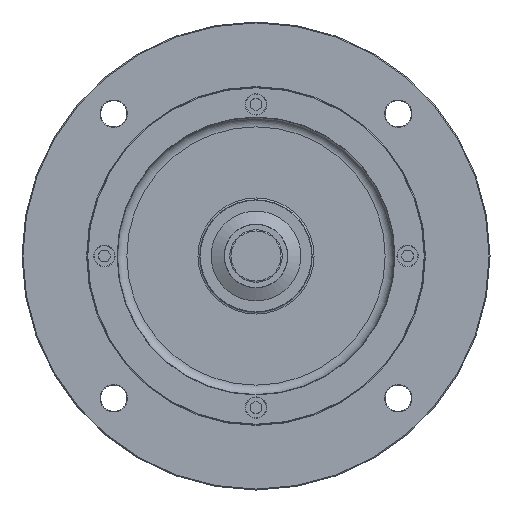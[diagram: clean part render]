
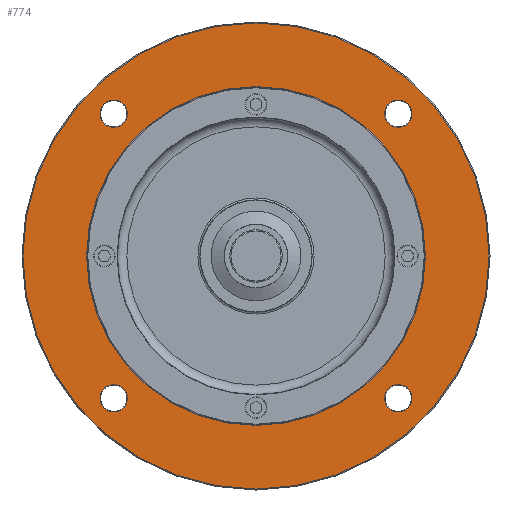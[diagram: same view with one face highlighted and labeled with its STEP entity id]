
A CAD part, front view. The second image highlights one B-rep face of the part: STEP entity #774.
In plain terms, the highlighted planar face has unit normal (0, -1, 0).
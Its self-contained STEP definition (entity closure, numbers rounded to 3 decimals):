
#774=ADVANCED_FACE('',(#1346,#1347,#1348,#1349,#1350,#1148),#1069,.T.);
#1069=PLANE('',#4369);
#1148=FACE_OUTER_BOUND('',#1688,.T.);
#1346=FACE_BOUND('',#1683,.T.);
#1347=FACE_BOUND('',#1684,.T.);
#1348=FACE_BOUND('',#1685,.T.);
#1349=FACE_BOUND('',#1686,.T.);
#1350=FACE_BOUND('',#1687,.T.);
#1683=EDGE_LOOP('',(#2213));
#1684=EDGE_LOOP('',(#2214));
#1685=EDGE_LOOP('',(#2215));
#1686=EDGE_LOOP('',(#2216));
#1687=EDGE_LOOP('',(#2217));
#1688=EDGE_LOOP('',(#2218));
#2213=ORIENTED_EDGE('',*,*,#3537,.T.);
#2214=ORIENTED_EDGE('',*,*,#3538,.T.);
#2215=ORIENTED_EDGE('',*,*,#3539,.T.);
#2216=ORIENTED_EDGE('',*,*,#3540,.T.);
#2217=ORIENTED_EDGE('',*,*,#3541,.T.);
#2218=ORIENTED_EDGE('',*,*,#3542,.T.);
#3153=VERTEX_POINT('',#6470);
#3154=VERTEX_POINT('',#6472);
#3155=VERTEX_POINT('',#6474);
#3156=VERTEX_POINT('',#6476);
#3157=VERTEX_POINT('',#6478);
#3158=VERTEX_POINT('',#6480);
#3537=EDGE_CURVE('',#3153,#3153,#4007,.T.);
#3538=EDGE_CURVE('',#3154,#3154,#4008,.T.);
#3539=EDGE_CURVE('',#3155,#3155,#4009,.T.);
#3540=EDGE_CURVE('',#3156,#3156,#4010,.T.);
#3541=EDGE_CURVE('',#3157,#3157,#4011,.T.);
#3542=EDGE_CURVE('',#3158,#3158,#4012,.T.);
#4007=CIRCLE('',#4363,90.5);
#4008=CIRCLE('',#4364,7.3);
#4009=CIRCLE('',#4365,7.3);
#4010=CIRCLE('',#4366,7.3);
#4011=CIRCLE('',#4367,7.3);
#4012=CIRCLE('',#4368,124.5);
#4363=AXIS2_PLACEMENT_3D('',#6469,#5033,#5034);
#4364=AXIS2_PLACEMENT_3D('',#6471,#5035,#5036);
#4365=AXIS2_PLACEMENT_3D('',#6473,#5037,#5038);
#4366=AXIS2_PLACEMENT_3D('',#6475,#5039,#5040);
#4367=AXIS2_PLACEMENT_3D('',#6477,#5041,#5042);
#4368=AXIS2_PLACEMENT_3D('',#6479,#5043,#5044);
#4369=AXIS2_PLACEMENT_3D('',#6481,#5045,#5046);
#5033=DIRECTION('',(0.,1.,0.));
#5034=DIRECTION('',(0.,0.,-1.));
#5035=DIRECTION('',(0.,1.,0.));
#5036=DIRECTION('',(0.,0.,-1.));
#5037=DIRECTION('',(0.,1.,0.));
#5038=DIRECTION('',(0.,0.,-1.));
#5039=DIRECTION('',(0.,1.,0.));
#5040=DIRECTION('',(0.,0.,-1.));
#5041=DIRECTION('',(0.,1.,0.));
#5042=DIRECTION('',(0.,0.,-1.));
#5043=DIRECTION('',(0.,-1.,0.));
#5044=DIRECTION('',(0.,0.,-1.));
#5045=DIRECTION('',(0.,-1.,0.));
#5046=DIRECTION('',(0.,0.,-1.));
#6469=CARTESIAN_POINT('',(0.,0.,0.));
#6470=CARTESIAN_POINT('',(0.,0.,-90.5));
#6471=CARTESIAN_POINT('',(76.014,0.,76.014));
#6472=CARTESIAN_POINT('',(76.014,0.,68.714));
#6473=CARTESIAN_POINT('',(76.014,0.,-76.014));
#6474=CARTESIAN_POINT('',(76.014,0.,-83.314));
#6475=CARTESIAN_POINT('',(-76.014,0.,-76.014));
#6476=CARTESIAN_POINT('',(-76.014,0.,-83.314));
#6477=CARTESIAN_POINT('',(-76.014,0.,76.014));
#6478=CARTESIAN_POINT('',(-76.014,0.,68.714));
#6479=CARTESIAN_POINT('',(0.,0.,0.));
#6480=CARTESIAN_POINT('',(0.,0.,-124.5));
#6481=CARTESIAN_POINT('',(0.,0.,0.));
